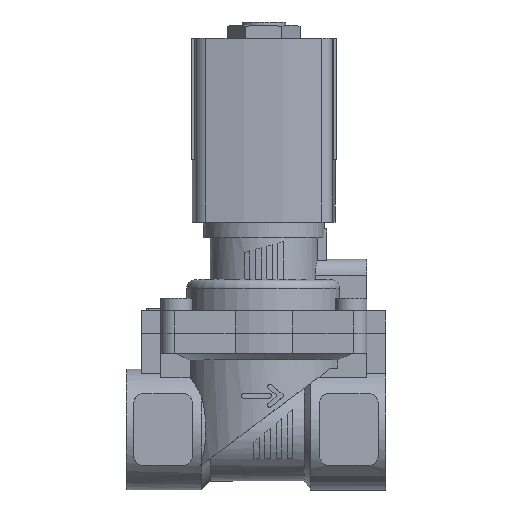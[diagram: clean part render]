
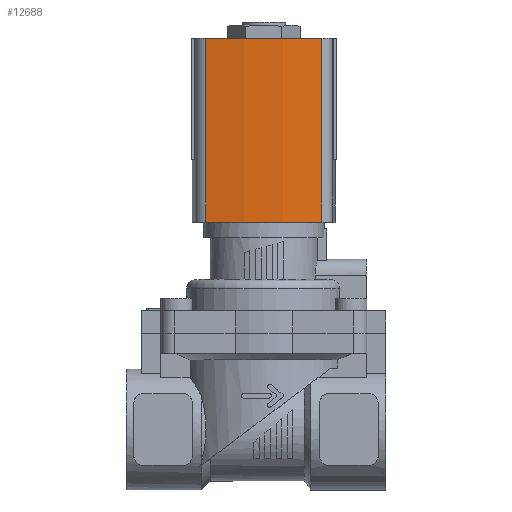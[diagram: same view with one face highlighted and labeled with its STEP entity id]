
A CAD part, top view. The second image highlights one B-rep face of the part: STEP entity #12688.
In plain terms, the highlighted cylindrical face has radius 60 mm (diameter 120 mm), a partial arc.
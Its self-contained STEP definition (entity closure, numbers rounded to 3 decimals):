
#239=CYLINDRICAL_SURFACE('',#13552,60.);
#1236=LINE('',#19434,#2318);
#1237=LINE('',#19438,#2319);
#2318=VECTOR('',#16095,1000.);
#2319=VECTOR('',#16100,1000.);
#4689=ORIENTED_EDGE('',*,*,#6709,.T.);
#4690=ORIENTED_EDGE('',*,*,#6710,.F.);
#4691=ORIENTED_EDGE('',*,*,#5995,.F.);
#4692=ORIENTED_EDGE('',*,*,#6708,.T.);
#5995=EDGE_CURVE('',#7254,#7255,#7984,.T.);
#6708=EDGE_CURVE('',#7254,#7760,#1236,.T.);
#6709=EDGE_CURVE('',#7760,#7761,#8078,.T.);
#6710=EDGE_CURVE('',#7255,#7761,#1237,.T.);
#7254=VERTEX_POINT('',#18088);
#7255=VERTEX_POINT('',#18090);
#7760=VERTEX_POINT('',#19433);
#7761=VERTEX_POINT('',#19437);
#7984=CIRCLE('',#13332,60.);
#8078=CIRCLE('',#13553,60.);
#8503=EDGE_LOOP('',(#4689,#4690,#4691,#4692));
#9083=FACE_BOUND('',#8503,.T.);
#12688=ADVANCED_FACE('',(#9083),#239,.T.);
#13332=AXIS2_PLACEMENT_3D('',#18089,#15036,#15037);
#13552=AXIS2_PLACEMENT_3D('',#19435,#16096,#16097);
#13553=AXIS2_PLACEMENT_3D('',#19436,#16098,#16099);
#15036=DIRECTION('',(0.,1.,0.));
#15037=DIRECTION('',(1.,0.,0.));
#16095=DIRECTION('',(0.,-1.,0.));
#16096=DIRECTION('',(0.,-1.,0.));
#16097=DIRECTION('',(0.,0.,-1.));
#16098=DIRECTION('',(0.,1.,0.));
#16099=DIRECTION('',(1.,0.,0.));
#16100=DIRECTION('',(0.,-1.,0.));
#18088=CARTESIAN_POINT('',(19.078,15.,12.986));
#18089=CARTESIAN_POINT('',(-39.5,15.,0.));
#18090=CARTESIAN_POINT('',(19.078,15.,-12.986));
#19433=CARTESIAN_POINT('',(19.078,-26.,12.986));
#19434=CARTESIAN_POINT('',(19.078,15.,12.986));
#19435=CARTESIAN_POINT('',(-39.5,15.,0.));
#19436=CARTESIAN_POINT('',(-39.5,-26.,0.));
#19437=CARTESIAN_POINT('',(19.078,-26.,-12.986));
#19438=CARTESIAN_POINT('',(19.078,15.,-12.986));
